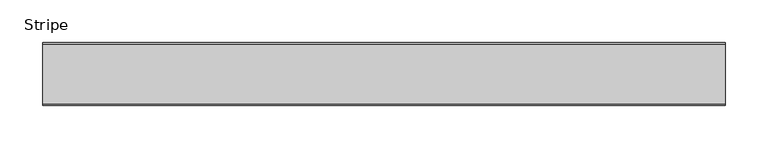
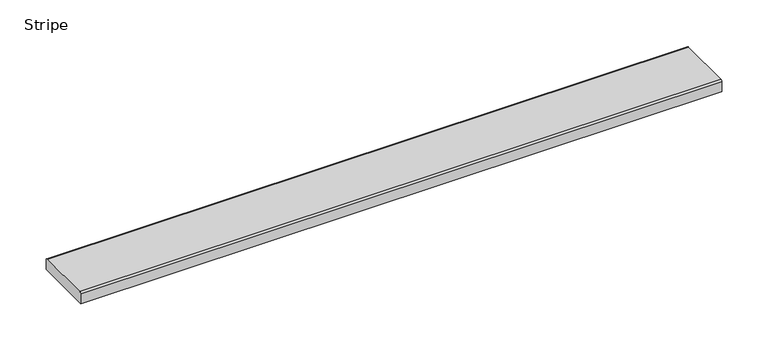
"""IFC4 building model written with IfcOpenShell, lengths in millimetres: sanitary terminal geometry, ZZZ_do not use_PF_ST_grating for showerdrain e_Aco : Stripe."""

import ifcopenshell
import ifcopenshell.guid

model = None  # the IFC model being written
_history = None  # IfcOwnerHistory: only IFC2X3 demands one
_inside = {}  # id of a spatial element -> (the spatial element, [elements in it])
_under = {}  # id of a project, library or spatial element -> (it, [spatial elements below it])
_declared = {}  # id of a project -> (the project, [libraries it declares])
_typed = {}  # id of a type object -> (the type object, [elements of that type])
_made_of = {}  # id of a material, layer set ... -> (it, [elements and type objects made of it])


def new_model(schema):
    """Start an empty IFC model of exactly this schema.

    Asked for "IFC4X3", IfcOpenShell would pick the latest addendum, in which some entities
    have other attributes; the version numbers below select the first issue.
    IFC2X3 requires an IfcOwnerHistory on every rooted entity: one is made here for all.
    """
    global model, _history
    if schema == "IFC4X3":
        model = ifcopenshell.file(schema_version=(4, 3, 0, 0))
    else:
        model = ifcopenshell.file(schema=schema)
    _inside.clear()
    _under.clear()
    _declared.clear()
    _typed.clear()
    _made_of.clear()
    _history = None
    if model.schema == "IFC2X3":
        org = make("IfcOrganization", Name="unknown")
        user = make(
            "IfcPersonAndOrganization",
            ThePerson=make("IfcPerson", FamilyName="unknown"),
            TheOrganization=org,
        )
        app = make(
            "IfcApplication",
            ApplicationDeveloper=org,
            Version="unknown",
            ApplicationFullName="unknown",
            ApplicationIdentifier="unknown",
        )
        _history = make(
            "IfcOwnerHistory",
            OwningUser=user,
            OwningApplication=app,
            ChangeAction="ADDED",
            CreationDate=0,
        )
    return model


def make(cls, **values):
    """One entity of the class cls with the attributes given. An attribute that is None is left unset."""
    return model.create_entity(
        cls, **{name: value for name, value in values.items() if value is not None}
    )


def rooted(cls, **values):
    """An entity with a GlobalId (a new one), such as an element, a storey or a relation."""
    return make(cls, GlobalId=ifcopenshell.guid.new(), OwnerHistory=_history, **values)


def si_unit(unit_type, name, prefix=None):
    """IfcSIUnit, for example si_unit("LENGTHUNIT", "METRE", prefix="MILLI")."""
    return make("IfcSIUnit", UnitType=unit_type, Prefix=prefix, Name=name)


def assignment(units):
    """IfcUnitAssignment: the units of a project."""
    return None if units is None else make("IfcUnitAssignment", Units=units)


def point(xyz):
    """IfcCartesianPoint."""
    return None if xyz is None else make("IfcCartesianPoint", Coordinates=xyz)


def direction(xyz):
    """IfcDirection."""
    return None if xyz is None else make("IfcDirection", DirectionRatios=xyz)


def frame(location, z_axis=None, x_axis=None):
    """IfcAxis2Placement3D, a coordinate frame: its origin and axes. An axis left out is left unset."""
    return make(
        "IfcAxis2Placement3D",
        Location=point(location),
        Axis=direction(z_axis),
        RefDirection=direction(x_axis),
    )


def frame_2d(location, x_axis=None):
    """IfcAxis2Placement2D, a coordinate frame in the plane: its origin and x axis."""
    return make(
        "IfcAxis2Placement2D", Location=point(location), RefDirection=direction(x_axis)
    )


def origin():
    """The frame at (0, 0, 0) with its axes left unset."""
    return frame((0.0, 0.0, 0.0))


def place(relative_to, where):
    """IfcLocalPlacement: puts the frame where relative to a parent placement (None: the world)."""
    return make(
        "IfcLocalPlacement", PlacementRelTo=relative_to, RelativePlacement=where
    )


def context(
    kind, dimensions, precision=None, world=None, true_north=None, identifier=None
):
    """IfcGeometricRepresentationContext, for example the 3D "Model" context."""
    return make(
        "IfcGeometricRepresentationContext",
        ContextIdentifier=identifier,
        ContextType=kind,
        CoordinateSpaceDimension=dimensions,
        Precision=precision,
        WorldCoordinateSystem=world,
        TrueNorth=true_north,
    )


def project(units=None, contexts=None):
    """IfcProject with its units and contexts."""
    return rooted(
        "IfcProject",
        Name="project",
        RepresentationContexts=contexts,
        UnitsInContext=assignment(units),
    )


def spatial(cls, under=None, at=None, **own):
    """A site, building, storey or space (cls), placed at a placement, below another one or the project."""
    s = rooted(cls, ObjectPlacement=at, **own)
    if under is not None:
        _under.setdefault(under.id(), (under, []))[1].append(s)
    return s


def polyline(points):
    """IfcPolyline through the points."""
    return make("IfcPolyline", Points=[point(p) for p in points])


def circle_curve(where, radius):
    """IfcCircle in the frame where."""
    return make("IfcCircle", Position=where, Radius=radius)


def trimmed(basis, trim1, trim2, sense, master):
    """IfcTrimmedCurve: the piece of a basis curve between two trims."""
    return make(
        "IfcTrimmedCurve",
        BasisCurve=basis,
        Trim1=trim1,
        Trim2=trim2,
        SenseAgreement=sense,
        MasterRepresentation=master,
    )


def segment(curve, same_sense, transition):
    """IfcCompositeCurveSegment."""
    return make(
        "IfcCompositeCurveSegment",
        Transition=transition,
        SameSense=same_sense,
        ParentCurve=curve,
    )


def composite_curve(segments, self_intersect=None):
    """IfcCompositeCurve: segments joined end to end."""
    return make("IfcCompositeCurve", Segments=segments, SelfIntersect=self_intersect)


def outline(outer, holes=None, kind="AREA"):
    """IfcArbitraryClosedProfileDef: a profile drawn as a closed curve; with holes, ...WithVoids."""
    if holes is None:
        return make("IfcArbitraryClosedProfileDef", ProfileType=kind, OuterCurve=outer)
    return make(
        "IfcArbitraryProfileDefWithVoids",
        ProfileType=kind,
        OuterCurve=outer,
        InnerCurves=holes,
    )


def extrude(swept, where, along, depth):
    """IfcExtrudedAreaSolid: the profile swept, set in the frame where, extruded along a direction by depth."""
    return make(
        "IfcExtrudedAreaSolid",
        SweptArea=swept,
        Position=where,
        ExtrudedDirection=direction(along),
        Depth=depth,
    )


def shape(context_of_items, identifier, shape_type, items):
    """IfcShapeRepresentation: the items that make up one representation, for example the "Body"."""
    return make(
        "IfcShapeRepresentation",
        ContextOfItems=context_of_items,
        RepresentationIdentifier=identifier,
        RepresentationType=shape_type,
        Items=items,
    )


def source(mapping_origin, context_of_items, identifier, shape_type, items):
    """IfcRepresentationMap: a shape defined once, which mapped items show again and again."""
    return make(
        "IfcRepresentationMap",
        MappingOrigin=mapping_origin,
        MappedRepresentation=shape(context_of_items, identifier, shape_type, items),
    )


def transform(
    local_origin,
    x_axis=None,
    y_axis=None,
    z_axis=None,
    scale=None,
    scale2=None,
    scale3=None,
    uniform=True,
):
    """IfcCartesianTransformationOperator3D, or its non-uniform kind. x_axis, y_axis, z_axis: its Axis1, 2, 3."""
    if uniform:
        return make(
            "IfcCartesianTransformationOperator3D",
            Axis1=direction(x_axis),
            Axis2=direction(y_axis),
            LocalOrigin=point(local_origin),
            Scale=scale,
            Axis3=direction(z_axis),
        )
    return make(
        "IfcCartesianTransformationOperator3DnonUniform",
        Axis1=direction(x_axis),
        Axis2=direction(y_axis),
        LocalOrigin=point(local_origin),
        Scale=scale,
        Axis3=direction(z_axis),
        Scale2=scale2,
        Scale3=scale3,
    )


def mapped(mapping_source, mapping_target):
    """IfcMappedItem: shows the shape of a source again, moved by a transform."""
    return make(
        "IfcMappedItem", MappingSource=mapping_source, MappingTarget=mapping_target
    )


def made_of(thing, what):
    """Note that an element or type object is made of a material, layer set ...; save() writes the relation."""
    if what is not None:
        _made_of.setdefault(what.id(), (what, []))[1].append(thing)
    return thing


def element(
    cls,
    number,
    at=None,
    inside=None,
    cuts=None,
    type_object=None,
    material=None,
    context=None,
    identifier="Body",
    shape_type=None,
    held_by="IfcProductDefinitionShape",
    body=None,
    shapes=None,
    **own,
):
    """One element of the class cls, such as IfcWall. Its Tag is "e" and its number.

    at: its placement. inside: the storey or other place that contains it. cuts: it is an
    opening in that element (IfcRelVoidsElement). A single representation is given by context,
    identifier, shape_type and body (its items); several are given by shapes. held_by: the class
    of the entity that holds the representations. save() writes the other relations.
    """
    e = rooted(cls, Tag="e%d" % number, ObjectPlacement=at, **own)
    if body is not None:
        shapes = [shape(context, identifier, shape_type, body)]
    if shapes is not None:
        e.Representation = make(held_by, Representations=shapes)
    if inside is not None:
        _inside.setdefault(inside.id(), (inside, []))[1].append(e)
    if cuts is not None:
        rooted(
            "IfcRelVoidsElement", RelatingBuildingElement=cuts, RelatedOpeningElement=e
        )
    if type_object is not None:
        _typed.setdefault(type_object.id(), (type_object, []))[1].append(e)
    return made_of(e, material)


def aggregate(whole, parts):
    """IfcRelAggregates: a whole, such as a stair, and the parts it consists of."""
    return rooted("IfcRelAggregates", RelatingObject=whole, RelatedObjects=parts)


def save(model, path):
    """Write the relations noted so far, then the file.

    IfcRelAggregates (storeys below a building ...), IfcRelContainedInSpatialStructure (elements
    in a storey), IfcRelDefinesByType, IfcRelAssociatesMaterial and IfcRelDeclares: one each for
    every whole, place, type object, material and project.
    """
    for whole, parts in _under.values():
        aggregate(whole, parts)
    for where, things in _inside.values():
        rooted(
            "IfcRelContainedInSpatialStructure",
            RelatedElements=things,
            RelatingStructure=where,
        )
    for kind, things in _typed.values():
        rooted("IfcRelDefinesByType", RelatedObjects=things, RelatingType=kind)
    for what, things in _made_of.values():
        rooted("IfcRelAssociatesMaterial", RelatedObjects=things, RelatingMaterial=what)
    for by, libraries in _declared.values():
        rooted("IfcRelDeclares", RelatingContext=by, RelatedDefinitions=libraries)
    model.write(path)


def stripe_b3f19a70(model_context):
    return source(origin(), model_context, "Body", "SweptSolid", [
        extrude(outline(composite_curve([segment(polyline([(37.0, -15.0), (-37.0, -15.0), (-37.0, -1.977849)]), True, "CONTINUOUS"), segment(trimmed(circle_curve(frame_2d((-35.022151, -1.977849)), 1.977849), [point((-37.0, -1.977849))], [point((-35.022151, 0.0))], False, "CARTESIAN"), True, "CONTINUOUS"), segment(polyline([(-35.022151, 0.0), (35.022151, 0.0)]), True, "CONTINUOUS"), segment(trimmed(circle_curve(frame_2d((35.022151, -1.977849)), 1.977849), [point((35.022151, 0.0))], [point((37.0, -1.977849))], False, "CARTESIAN"), True, "CONTINUOUS"), segment(polyline([(37.0, -1.977849), (37.0, -15.0)]), True, "CONTINUOUS")], self_intersect=False)), frame((-400.0, 0.0, 0.0), z_axis=(1.0, 0.0, 0.0), x_axis=(0.0, 1.0, 0.0)), (0.0, 0.0, 1.0), 800.0),
    ])


if __name__ == "__main__":
    model = new_model("IFC4")
    model_context = context("Model", 3, world=origin())
    ifc_project = project(units=[si_unit("LENGTHUNIT", "METRE", prefix="MILLI")], contexts=[model_context])
    site = spatial("IfcSite", under=ifc_project)
    building = spatial("IfcBuilding", under=site)
    placement = place(None, origin())
    stripe_shape = stripe_b3f19a70(model_context)
    element("IfcSanitaryTerminal", 1, ObjectType="ZZZ_do not use_PF_ST_grating for showerdrain e_Aco : Stripe", at=placement, inside=building, context=model_context, shape_type="MappedRepresentation", body=[
        mapped(stripe_shape, transform((0.0, 0.0, 0.0), x_axis=(1.0, 0.0, 0.0), y_axis=(0.0, 1.0, 0.0), z_axis=(0.0, 0.0, 1.0))),
    ])
    save(model, "model.ifc")
